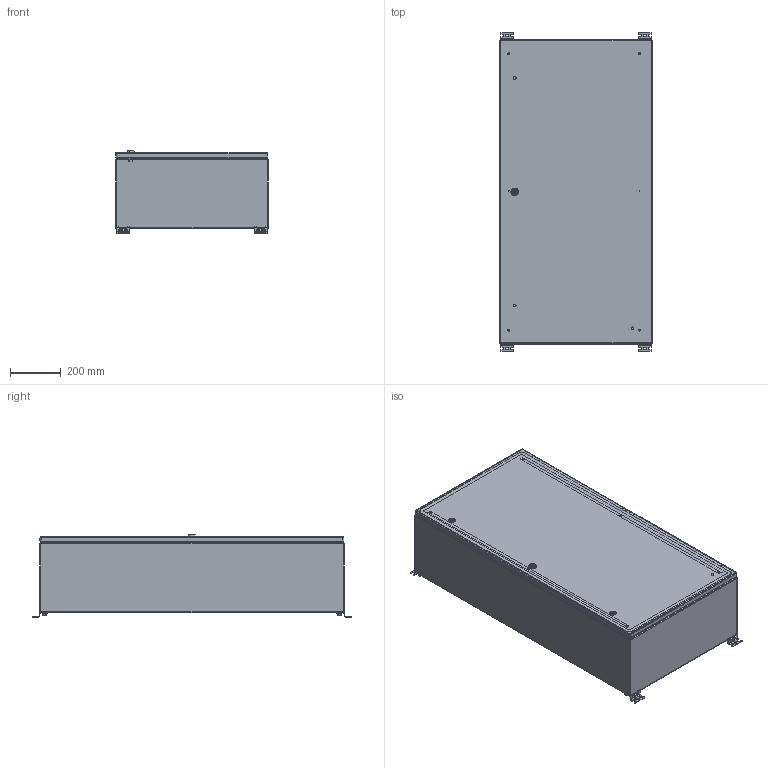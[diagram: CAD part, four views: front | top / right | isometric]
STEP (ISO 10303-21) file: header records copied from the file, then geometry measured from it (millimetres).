
FILE_DESCRIPTION(('STEP AP242'), '1');
FILE_NAME('400 ﾙﾌﾏ-1 (IP-56)', '', ('UNSPECIFIED'), ('UNSPECIFIED'), 'C3D Converter', 'C3D Toolkit', '');
FILE_SCHEMA(('AP242_MANAGED_MODEL_BASED_3D_ENGINEERING_MIM_LF { 1 0 10303 442 1 1 4 }'));
Length unit declared in the file: millimetre
Products named in the file (54): ЩМП-1-Ф СБ; 410-Ф; 420; 421; 411-Ф; 412; 490; 491; 401; 440-Ф; 441-Ф; 402; 450; 451; ЦИУЛ.210677.00.03-03; 452
Assembly tree (125 placements, depth 4):
  ЩМП-1-Ф СБ
    410-Ф
      420
        421
        (unnamed)  x6
        (unnamed)
      411-Ф
      412
    490  x2
      491
      (unnamed)
      (unnamed)
      (unnamed)
      (unnamed)
      (unnamed)
    490  x2
      491
      (unnamed)
      (unnamed)
      (unnamed)
      (unnamed)
      (unnamed)
    401
    (unnamed)  x6
    (unnamed)  x6
    (unnamed)  x6
    (unnamed)  x3
      (unnamed)
      (unnamed)
      (unnamed)
    (unnamed)  x6
    440-Ф
      441-Ф
      (unnamed)
      (unnamed)  x6
      (unnamed)  x2
      (unnamed)  x3
    402  x2
    (unnamed)  x6
    (unnamed)  x6
    (unnamed)  x2
    (unnamed)
      (unnamed)
      (unnamed)
      (unnamed)
      (unnamed)
      (unnamed)
    (unnamed)
    (unnamed)  x2
      (unnamed)
      (unnamed)
      (unnamed)
    (unnamed)  x2
    (unnamed)  x2
    450
      451
      (unnamed)  x3
      (unnamed)  x2
      (unnamed)  x2
      (unnamed)  x3
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Bounding box: 600 x 1256 x 323.1 mm (x, y, z)
Volume: 5912818.5 mm3; surface area: 7106627.9 mm2
Topology: 137 solids, 139 shells, 2792 faces, 6546 edges, 4105 vertices
Faces by surface type: plane 1492, cylinder 846, cone 266, torus 75, bspline 70, sphere 43
Full cylindrical faces by diameter (mm): 0.5 x6, 2.6 x4, 3.3 x1, 3.5 x168, 4 x5, 4.134 x5, 4.2 x7, 4.85 x2, 4.917 x6, 5 x18, 5.3 x2, 5.5 x15, 5.75 x3, 5.8 x1, 6 x25, 6.4 x6, 6.5 x4, 6.647 x10, 7 x9, 7.3 x6, 7.4 x1, 7.5 x9, 7.9 x4, 8 x21, 8.3 x2, 8.4 x10, 8.5 x23, 9 x14, 10 x16, 10.4 x1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
Entity records: 85053 total; most frequent: CARTESIAN_POINT 43888, DIRECTION 6832, ORIENTED_EDGE 6448, EDGE_CURVE 3224, AXIS2_PLACEMENT_3D 2610, VERTEX_POINT 2186, EDGE_LOOP 2062, LINE 1612
